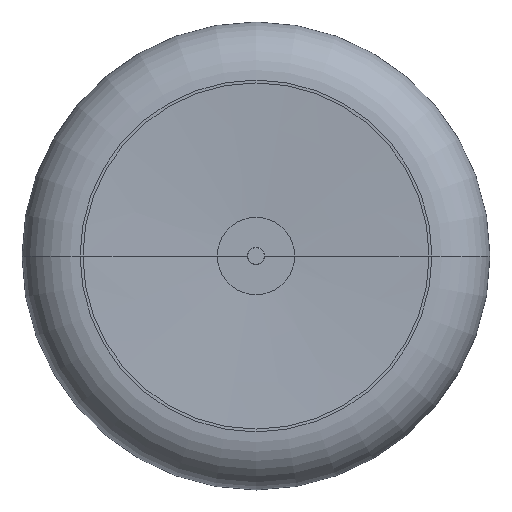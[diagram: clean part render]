
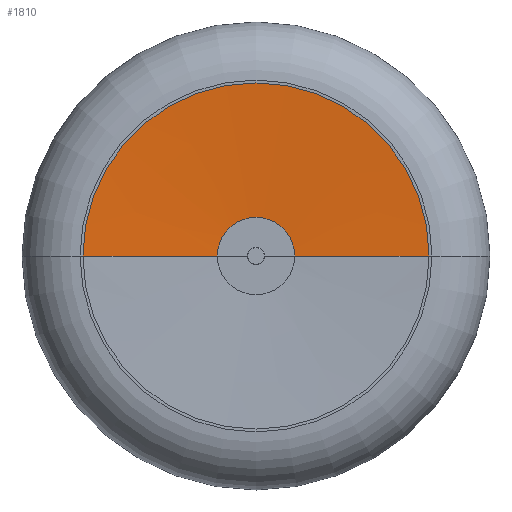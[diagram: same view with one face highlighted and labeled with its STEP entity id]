
A CAD part, front view. The second image highlights one B-rep face of the part: STEP entity #1810.
In plain terms, the highlighted conical face has half-angle 87.189 degrees and reference radius 201.19 mm.
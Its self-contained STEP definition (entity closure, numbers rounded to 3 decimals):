
#1270=CARTESIAN_POINT('',(45.,-151.435,0.));
#1280=VERTEX_POINT('',#1270);
#1360=CARTESIAN_POINT('',(-45.,-151.435,0.));
#1370=VERTEX_POINT('',#1360);
#1400=CARTESIAN_POINT('',(0.,-151.435,0.));
#1410=DIRECTION('',(0.,1.,-0.));
#1420=DIRECTION('',(1.,0.,0.));
#1430=AXIS2_PLACEMENT_3D('',#1400,#1410,#1420);
#1440=CIRCLE('',#1430,45.);
#1450=EDGE_CURVE('',#1370,#1280,#1440,.T.);
#1500=CARTESIAN_POINT('',(0.,-159.104,0.));
#1510=DIRECTION('',(0.,-1.,0.));
#1520=DIRECTION('',(-1.,0.,0.));
#1530=AXIS2_PLACEMENT_3D('',#1500,#1510,#1520);
#1540=CONICAL_SURFACE('',#1530,201.19,1.522);
#1550=CARTESIAN_POINT('',(201.19,-159.104,
0.));
#1560=DIRECTION('',(0.999,-0.049,
0.));
#1570=VECTOR('',#1560,201.432);
#1580=LINE('',#1550,#1570);
#1590=CARTESIAN_POINT('',(201.19,-159.104,
0.));
#1600=VERTEX_POINT('',#1590);
#1610=EDGE_CURVE('',#1280,#1600,#1580,.T.);
#1620=ORIENTED_EDGE('',*,*,#1610,.T.);
#1630=ORIENTED_EDGE('',*,*,#1450,.T.);
#1640=CARTESIAN_POINT('',(-201.19,-159.104,0.));
#1650=DIRECTION('',(-0.999,-0.049,0.));
#1660=VECTOR('',#1650,201.432);
#1670=LINE('',#1640,#1660);
#1680=CARTESIAN_POINT('',(-201.19,-159.104,0.));
#1690=VERTEX_POINT('',#1680);
#1700=EDGE_CURVE('',#1370,#1690,#1670,.T.);
#1710=ORIENTED_EDGE('',*,*,#1700,.F.);
#1720=CARTESIAN_POINT('',(0.,-159.104,0.));
#1730=DIRECTION('',(0.,1.,-0.));
#1740=DIRECTION('',(1.,0.,0.));
#1750=AXIS2_PLACEMENT_3D('',#1720,#1730,#1740);
#1760=CIRCLE('',#1750,201.19);
#1770=EDGE_CURVE('',#1690,#1600,#1760,.T.);
#1780=ORIENTED_EDGE('',*,*,#1770,.F.);
#1790=EDGE_LOOP('',(#1780,#1710,#1630,#1620));
#1800=FACE_OUTER_BOUND('',#1790,.T.);
#1810=ADVANCED_FACE('',(#1800),#1540,.F.);
